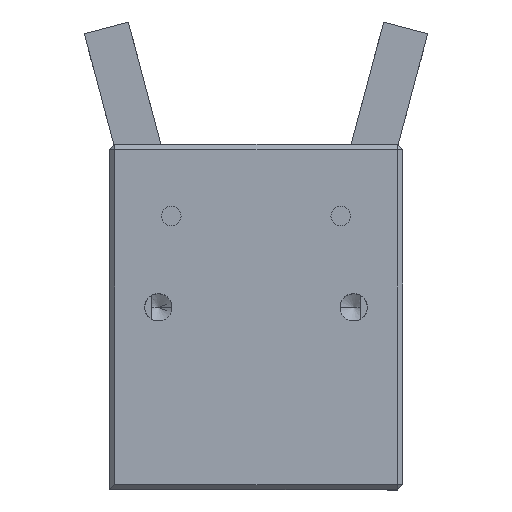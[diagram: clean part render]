
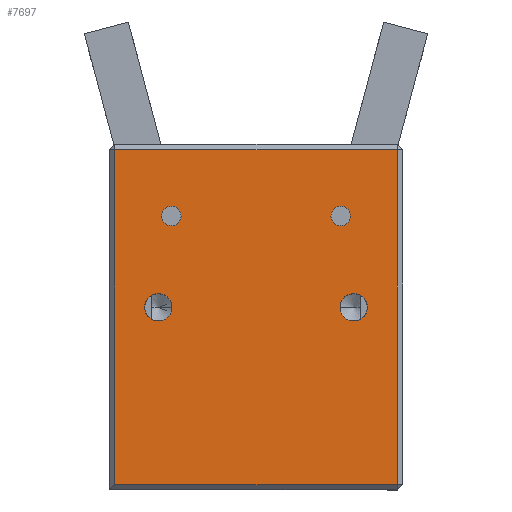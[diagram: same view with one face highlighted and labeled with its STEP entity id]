
A CAD part, top view. The second image highlights one B-rep face of the part: STEP entity #7697.
In plain terms, the highlighted planar face has unit normal (0, 0, 1).
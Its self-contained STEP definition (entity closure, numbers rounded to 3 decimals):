
#6086 = VERTEX_POINT ( 'NONE', #14857 ) ;
#6503 = EDGE_LOOP ( 'NONE', ( #7679, #6515 ) ) ;
#6515 = ORIENTED_EDGE ( 'NONE', *, *, #8685, .F. ) ;
#7384 = VERTEX_POINT ( 'NONE', #19427 ) ;
#7517 = ORIENTED_EDGE ( 'NONE', *, *, #7702, .T. ) ;
#7618 = ORIENTED_EDGE ( 'NONE', *, *, #7720, .T. ) ;
#7624 = EDGE_LOOP ( 'NONE', ( #7680, #7685 ) ) ;
#7642 = VERTEX_POINT ( 'NONE', #20053 ) ;
#7645 = VERTEX_POINT ( 'NONE', #20099 ) ;
#7657 = VERTEX_POINT ( 'NONE', #20098 ) ;
#7674 = ORIENTED_EDGE ( 'NONE', *, *, #7676, .F. ) ;
#7675 = EDGE_LOOP ( 'NONE', ( #7674, #7682 ) ) ;
#7676 = EDGE_CURVE ( 'NONE', #7657, #7645, #20206, .T. ) ;
#7679 = ORIENTED_EDGE ( 'NONE', *, *, #7724, .F. ) ;
#7680 = ORIENTED_EDGE ( 'NONE', *, *, #7693, .T. ) ;
#7682 = ORIENTED_EDGE ( 'NONE', *, *, #7882, .F. ) ;
#7685 = ORIENTED_EDGE ( 'NONE', *, *, #8346, .T. ) ;
#7690 = EDGE_CURVE ( 'NONE', #7704, #7384, #20191, .T. ) ;
#7693 = EDGE_CURVE ( 'NONE', #6086, #8335, #20236, .T. ) ;
#7694 = ORIENTED_EDGE ( 'NONE', *, *, #7699, .T. ) ;
#7695 = ORIENTED_EDGE ( 'NONE', *, *, #9999, .T. ) ;
#7696 = EDGE_LOOP ( 'NONE', ( #7517, #7695 ) ) ;
#7697 = ADVANCED_FACE ( 'NONE', ( #20242, #20233, #20228, #20234, #20232 ), #20241, .F. ) ;
#7699 = EDGE_CURVE ( 'NONE', #7707, #7642, #20222, .T. ) ;
#7702 = EDGE_CURVE ( 'NONE', #9936, #9935, #20231, .T. ) ;
#7704 = VERTEX_POINT ( 'NONE', #20268 ) ;
#7705 = EDGE_LOOP ( 'NONE', ( #7694, #7709, #7708, #7618 ) ) ;
#7706 = EDGE_CURVE ( 'NONE', #7642, #7704, #20267, .T. ) ;
#7707 = VERTEX_POINT ( 'NONE', #20269 ) ;
#7708 = ORIENTED_EDGE ( 'NONE', *, *, #7690, .T. ) ;
#7709 = ORIENTED_EDGE ( 'NONE', *, *, #7706, .T. ) ;
#7720 = EDGE_CURVE ( 'NONE', #7384, #7707, #20310, .T. ) ;
#7724 = EDGE_CURVE ( 'NONE', #8677, #8681, #20301, .T. ) ;
#7882 = EDGE_CURVE ( 'NONE', #7645, #7657, #20677, .T. ) ;
#8335 = VERTEX_POINT ( 'NONE', #21525 ) ;
#8346 = EDGE_CURVE ( 'NONE', #8335, #6086, #21569, .T. ) ;
#8677 = VERTEX_POINT ( 'NONE', #22920 ) ;
#8681 = VERTEX_POINT ( 'NONE', #22911 ) ;
#8685 = EDGE_CURVE ( 'NONE', #8681, #8677, #22907, .T. ) ;
#9935 = VERTEX_POINT ( 'NONE', #28328 ) ;
#9936 = VERTEX_POINT ( 'NONE', #28321 ) ;
#9999 = EDGE_CURVE ( 'NONE', #9935, #9936, #28420, .T. ) ;
#14857 = CARTESIAN_POINT ( 'NONE',  ( 34., 42., 26. ) ) ;
#19427 = CARTESIAN_POINT ( 'NONE',  ( 44.2, 52.2, 26. ) ) ;
#20053 = CARTESIAN_POINT ( 'NONE',  ( 0.8, 0.8, 26. ) ) ;
#20098 = CARTESIAN_POINT ( 'NONE',  ( 39.6, 28., 26. ) ) ;
#20099 = CARTESIAN_POINT ( 'NONE',  ( 35.4, 28., 26. ) ) ;
#20189 = AXIS2_PLACEMENT_3D ( 'NONE', #20235, #20230, #20229 ) ;
#20191 = LINE ( 'NONE', #20239, #20238 ) ;
#20199 = DIRECTION ( 'NONE',  ( 1., 0., 0. ) ) ;
#20200 = DIRECTION ( 'NONE',  ( 0., 0., 1. ) ) ;
#20201 = CARTESIAN_POINT ( 'NONE',  ( 37.5, 28., 26. ) ) ;
#20206 = CIRCLE ( 'NONE', #20214, 2.1 ) ;
#20214 = AXIS2_PLACEMENT_3D ( 'NONE', #20201, #20200, #20199 ) ;
#20219 = DIRECTION ( 'NONE',  ( 0., -1., 0. ) ) ;
#20220 = VECTOR ( 'NONE', #20219, 1000. ) ;
#20221 = CARTESIAN_POINT ( 'NONE',  ( 0.8, 53., 26. ) ) ;
#20222 = LINE ( 'NONE', #20221, #20220 ) ;
#20223 = DIRECTION ( 'NONE',  ( -1., 0., 0. ) ) ;
#20224 = DIRECTION ( 'NONE',  ( 0., 0., -1. ) ) ;
#20225 = AXIS2_PLACEMENT_3D ( 'NONE', #20240, #20224, #20223 ) ;
#20227 = AXIS2_PLACEMENT_3D ( 'NONE', #20279, #20274, #20248 ) ;
#20228 = FACE_OUTER_BOUND ( 'NONE', #7705, .T. ) ;
#20229 = DIRECTION ( 'NONE',  ( -1., 0., 0. ) ) ;
#20230 = DIRECTION ( 'NONE',  ( 0., 0., -1. ) ) ;
#20231 = CIRCLE ( 'NONE', #20227, 1.5 ) ;
#20232 = FACE_BOUND ( 'NONE', #7675, .T. ) ;
#20233 = FACE_BOUND ( 'NONE', #7696, .T. ) ;
#20234 = FACE_BOUND ( 'NONE', #6503, .T. ) ;
#20235 = CARTESIAN_POINT ( 'NONE',  ( 35.5, 42., 26. ) ) ;
#20236 = CIRCLE ( 'NONE', #20189, 1.5 ) ;
#20237 = DIRECTION ( 'NONE',  ( 0., 1., 0. ) ) ;
#20238 = VECTOR ( 'NONE', #20237, 1000. ) ;
#20239 = CARTESIAN_POINT ( 'NONE',  ( 44.2, 53., 26. ) ) ;
#20240 = CARTESIAN_POINT ( 'NONE',  ( 0., 53., 26. ) ) ;
#20241 = PLANE ( 'NONE',  #20225 ) ;
#20242 = FACE_BOUND ( 'NONE', #7624, .T. ) ;
#20248 = DIRECTION ( 'NONE',  ( -1., 0., 0. ) ) ;
#20258 = DIRECTION ( 'NONE',  ( 1., 0., 0. ) ) ;
#20260 = VECTOR ( 'NONE', #20258, 1000. ) ;
#20261 = CARTESIAN_POINT ( 'NONE',  ( 0., 0.8, 26. ) ) ;
#20267 = LINE ( 'NONE', #20261, #20260 ) ;
#20268 = CARTESIAN_POINT ( 'NONE',  ( 44.2, 0.8, 26. ) ) ;
#20269 = CARTESIAN_POINT ( 'NONE',  ( 0.8, 52.2, 26. ) ) ;
#20274 = DIRECTION ( 'NONE',  ( 0., 0., -1. ) ) ;
#20279 = CARTESIAN_POINT ( 'NONE',  ( 9.5, 42., 26. ) ) ;
#20285 = CARTESIAN_POINT ( 'NONE',  ( 7.5, 28., 26. ) ) ;
#20291 = DIRECTION ( 'NONE',  ( -1., 0., 0. ) ) ;
#20292 = VECTOR ( 'NONE', #20291, 1000. ) ;
#20293 = CARTESIAN_POINT ( 'NONE',  ( 0., 52.2, 26. ) ) ;
#20295 = AXIS2_PLACEMENT_3D ( 'NONE', #20285, #20300, #20323 ) ;
#20300 = DIRECTION ( 'NONE',  ( 0., 0., 1. ) ) ;
#20301 = CIRCLE ( 'NONE', #20295, 2.1 ) ;
#20310 = LINE ( 'NONE', #20293, #20292 ) ;
#20323 = DIRECTION ( 'NONE',  ( 1., 0., 0. ) ) ;
#20615 = CARTESIAN_POINT ( 'NONE',  ( 37.5, 28., 26. ) ) ;
#20617 = AXIS2_PLACEMENT_3D ( 'NONE', #20615, #20659, #20658 ) ;
#20658 = DIRECTION ( 'NONE',  ( 1., 0., 0. ) ) ;
#20659 = DIRECTION ( 'NONE',  ( 0., 0., 1. ) ) ;
#20677 = CIRCLE ( 'NONE', #20617, 2.1 ) ;
#21485 = DIRECTION ( 'NONE',  ( 0., 0., -1. ) ) ;
#21517 = DIRECTION ( 'NONE',  ( -1., 0., 0. ) ) ;
#21522 = CARTESIAN_POINT ( 'NONE',  ( 35.5, 42., 26. ) ) ;
#21523 = AXIS2_PLACEMENT_3D ( 'NONE', #21522, #21485, #21517 ) ;
#21525 = CARTESIAN_POINT ( 'NONE',  ( 37., 42., 26. ) ) ;
#21569 = CIRCLE ( 'NONE', #21523, 1.5 ) ;
#22893 = DIRECTION ( 'NONE',  ( 1., 0., 0. ) ) ;
#22894 = DIRECTION ( 'NONE',  ( 0., 0., 1. ) ) ;
#22895 = CARTESIAN_POINT ( 'NONE',  ( 7.5, 28., 26. ) ) ;
#22907 = CIRCLE ( 'NONE', #22917, 2.1 ) ;
#22911 = CARTESIAN_POINT ( 'NONE',  ( 5.4, 28., 26. ) ) ;
#22917 = AXIS2_PLACEMENT_3D ( 'NONE', #22895, #22894, #22893 ) ;
#22920 = CARTESIAN_POINT ( 'NONE',  ( 9.6, 28., 26. ) ) ;
#28321 = CARTESIAN_POINT ( 'NONE',  ( 8., 42., 26. ) ) ;
#28328 = CARTESIAN_POINT ( 'NONE',  ( 11., 42., 26. ) ) ;
#28370 = CARTESIAN_POINT ( 'NONE',  ( 9.5, 42., 26. ) ) ;
#28410 = DIRECTION ( 'NONE',  ( -1., 0., 0. ) ) ;
#28411 = DIRECTION ( 'NONE',  ( 0., 0., -1. ) ) ;
#28415 = AXIS2_PLACEMENT_3D ( 'NONE', #28370, #28411, #28410 ) ;
#28420 = CIRCLE ( 'NONE', #28415, 1.5 ) ;
